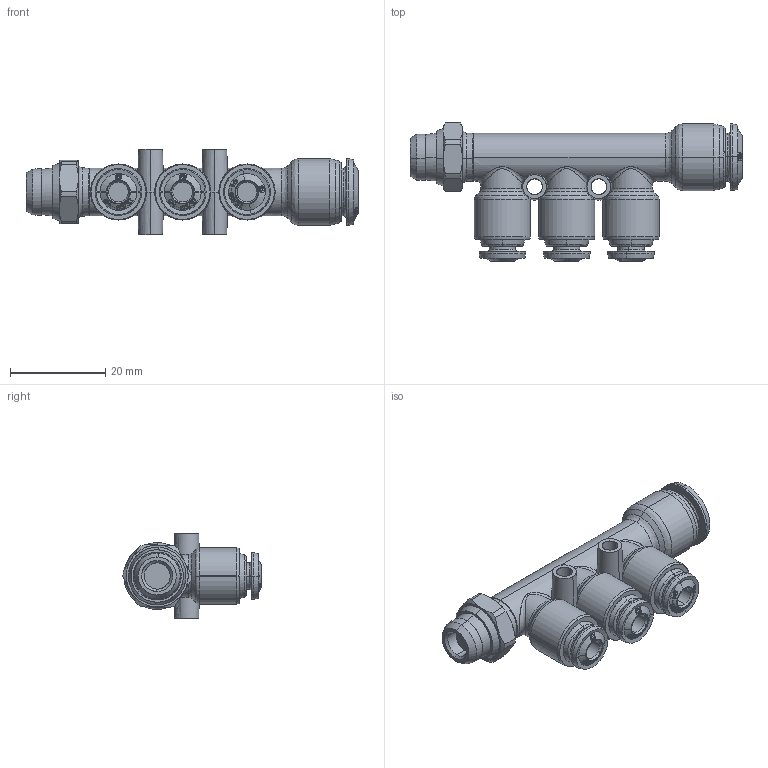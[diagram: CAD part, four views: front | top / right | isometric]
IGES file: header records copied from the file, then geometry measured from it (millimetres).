
Start section: SolidWorks IGES file using analytic representation for surfaces
Global section: file name: K:\Disegni Esecutivi\Serie 55000\ASSIEMI_55000\55360\ASSIEMI_PIENI_55360\5536000003.IGS; native system: SolidWorks 2007; preprocessor: SolidWorks 2007; author: cad02; date: 071130.134339; units: millimetre
Bounding box: 69.7 x 29 x 18 mm (x, y, z)
Surface area: 6263.4 mm2 (no closed solid volume)
Topology: 0 solids, 0 shells, 769 faces, 8497 edges, 8494 vertices
Faces by surface type: bspline 548, revolution 221
